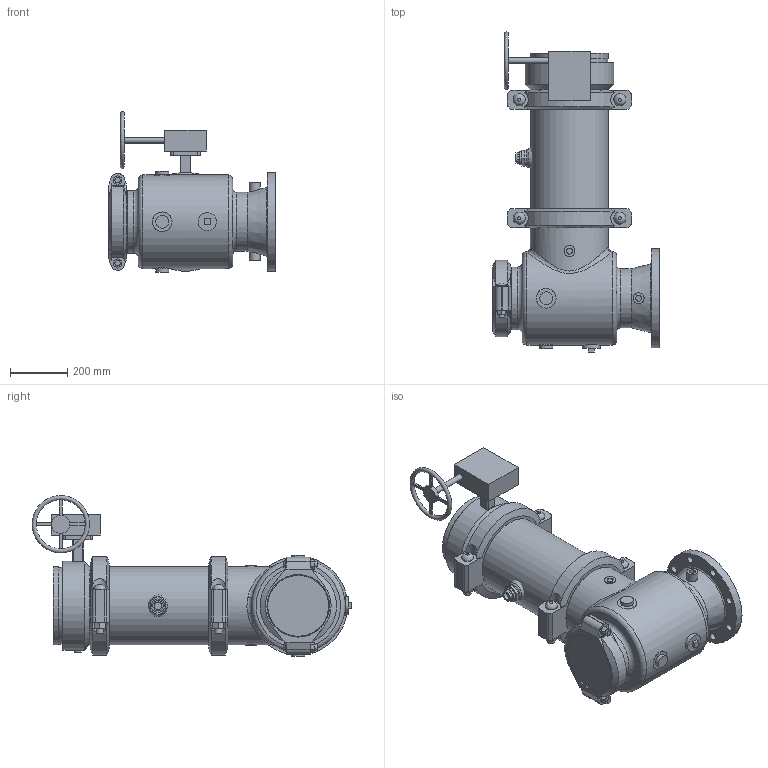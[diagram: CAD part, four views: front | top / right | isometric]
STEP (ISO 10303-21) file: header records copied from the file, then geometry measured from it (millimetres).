
FILE_DESCRIPTION(/* description */ ('VIC SVI PUMP DROP HORZ S/391 (OGSxFLG)','CAx-IF Rec.Pracs.---Representation and Presentation of Product Manufacturing Information (PMI)---4.0---2014-10-13'),/* implementation_level */ '2;1');
FILE_NAME(/* name */ 'C:\Users\kkamble\AppData\Roaming\Autodesk\ApplicationPlugins\Back Up\Victaulic_PN10_Series 391 (OGSxFLG)\Victaulic_PN10_Series 391 (OGSxFLG)_10.0x08.0 (250x200).stp',/* time_stamp */ '2020-11-26T23:45:31+05:00',/* author */ ('kkamble'),/* organization */ ('Victaulic'),/* preprocessor_version */ 'ST-DEVELOPER v17.2',/* originating_system */ 'Autodesk Inventor 2019',/* authorisation */ '');
FILE_SCHEMA (('AP242_MANAGED_MODEL_BASED_3D_ENGINEERING_MIM_LF { 1 0 10303 442 1 1 4 }'));
Length unit declared in the file: inch
Products named in the file (9): 391-10.0x08.0; 731D-10.0x08.0; 731D-10.0x08.0_1; 731D-10.0; 07-08.0; PIPE-10.0; 761-10.0; 077-10.0; 923-10.0x0.75
Assembly tree (9 placements, depth 3):
  391-10.0x08.0
    731D-10.0x08.0
      731D-10.0x08.0_1
      731D-10.0
      07-08.0
    PIPE-10.0
    761-10.0
    077-10.0  x2
    923-10.0x0.75
Bounding box: 584.2 x 1119.61 x 562.59 mm (x, y, z)
Volume: 32797013.2 mm3; surface area: 3383860.6 mm2
Topology: 8 solids, 15 shells, 447 faces, 1121 edges, 769 vertices
Faces by surface type: plane 249, cylinder 159, cone 19, torus 10, bspline 8, sphere 2
Full cylindrical faces by diameter (mm): 10.922 x4, 12.7 x1, 19.05 x4, 20.066 x1, 20.955 x4, 21.336 x1, 22.86 x1, 24.994 x8, 25.4 x8, 26.67 x1, 27.432 x4, 32.537 x2, 38.1 x4, 45.72 x3, 45.974 x2, 55.626 x1, 63.079 x1, 63.5 x1, 70.104 x1, 76.2 x1, 177.8 x1, 179.578 x1, 193.802 x1, 203.2 x1, 206.375 x1, 206.502 x1, 214.401 x2, 219.075 x5, 246.888 x1, 254.508 x2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
Entity records: 14055 total; most frequent: CARTESIAN_POINT 3599, DIRECTION 2122, ORIENTED_EDGE 1952, EDGE_CURVE 976, AXIS2_PLACEMENT_3D 830, VERTEX_POINT 671, EDGE_LOOP 495, LINE 462
